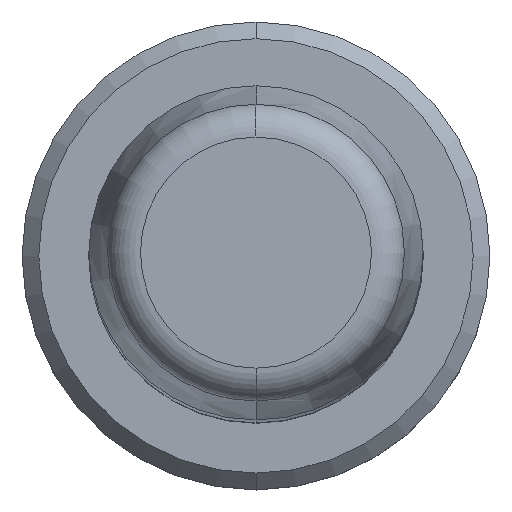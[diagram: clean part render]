
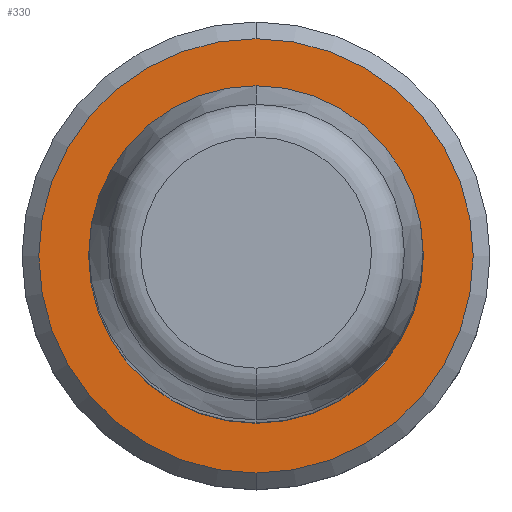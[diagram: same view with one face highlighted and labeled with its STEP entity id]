
A CAD part, top view. The second image highlights one B-rep face of the part: STEP entity #330.
In plain terms, the highlighted planar face has unit normal (0, 0, 1).
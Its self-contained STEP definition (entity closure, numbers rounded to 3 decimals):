
#70=CARTESIAN_POINT('',(0.,0.,4.));
#71=DIRECTION('',(0.,0.,-1.));
#72=DIRECTION('',(0.,1.,0.));
#73=AXIS2_PLACEMENT_3D('',#70,#71,#72);
#75=CARTESIAN_POINT('',(0.,0.,4.));
#76=DIRECTION('',(0.,0.,-1.));
#77=DIRECTION('',(0.,-1.,0.));
#78=AXIS2_PLACEMENT_3D('',#75,#76,#77);
#80=CARTESIAN_POINT('',(0.,0.,4.));
#81=DIRECTION('',(0.,0.,1.));
#82=DIRECTION('',(1.,0.,0.));
#83=AXIS2_PLACEMENT_3D('',#80,#81,#82);
#85=CARTESIAN_POINT('',(0.,0.,4.));
#86=DIRECTION('',(0.,0.,1.));
#87=DIRECTION('',(-1.,0.,0.));
#88=AXIS2_PLACEMENT_3D('',#85,#86,#87);
#167=CARTESIAN_POINT('',(0.,6.5,4.));
#168=CARTESIAN_POINT('',(0.,-6.5,4.));
#169=VERTEX_POINT('',#167);
#170=VERTEX_POINT('',#168);
#195=CARTESIAN_POINT('',(5.01,0.,4.));
#196=CARTESIAN_POINT('',(-5.01,0.,4.));
#197=VERTEX_POINT('',#195);
#198=VERTEX_POINT('',#196);
#314=CARTESIAN_POINT('',(0.,0.,4.));
#315=DIRECTION('',(0.,0.,1.));
#316=DIRECTION('',(0.,-1.,0.));
#317=AXIS2_PLACEMENT_3D('',#314,#315,#316);
#318=PLANE('',#317);
#320=ORIENTED_EDGE('',*,*,#319,.T.);
#322=ORIENTED_EDGE('',*,*,#321,.T.);
#323=EDGE_LOOP('',(#320,#322));
#324=FACE_OUTER_BOUND('',#323,.F.);
#326=ORIENTED_EDGE('',*,*,#325,.T.);
#327=ORIENTED_EDGE('',*,*,#304,.T.);
#328=EDGE_LOOP('',(#326,#327));
#329=FACE_BOUND('',#328,.F.);
#330=ADVANCED_FACE('',(#324,#329),#318,.T.);
#74=CIRCLE('',#73,6.5);
#79=CIRCLE('',#78,6.5);
#84=CIRCLE('',#83,5.01);
#89=CIRCLE('',#88,5.01);
#304=EDGE_CURVE('',#198,#197,#89,.T.);
#319=EDGE_CURVE('',#169,#170,#74,.T.);
#321=EDGE_CURVE('',#170,#169,#79,.T.);
#325=EDGE_CURVE('',#197,#198,#84,.T.);
